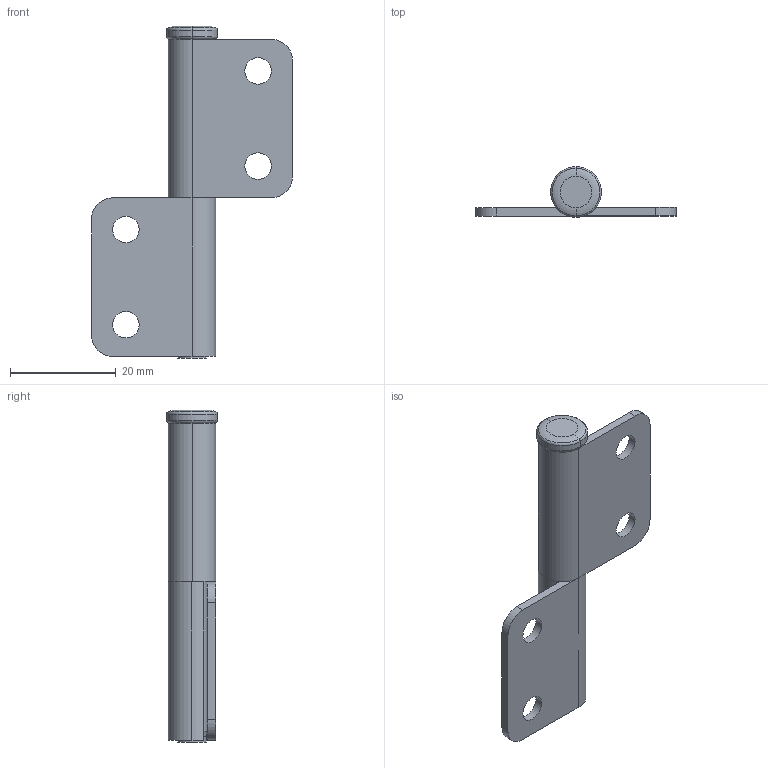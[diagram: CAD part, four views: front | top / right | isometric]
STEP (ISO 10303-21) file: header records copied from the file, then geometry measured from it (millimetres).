
FILE_DESCRIPTION (( 'STEP AP203' ), '1' );
FILE_NAME ('B-206-4.STEP', '2015-11-21T16:12:30', ( '' ), ( '' ), 'SwSTEP 2.0', 'SolidWorks 2014', '' );
FILE_SCHEMA (( 'CONFIG_CONTROL_DESIGN' ));
Length unit declared in the file: millimetre
Products named in the file (4): 小; 心-小; 小1; B-206-4
Assembly tree (3 placements, depth 2):
  B-206-4
    小
    心-小
    小1
Bounding box: 38 x 9.6 x 62.8 mm (x, y, z)
Volume: 5293.7 mm3; surface area: 6239.1 mm2
Topology: 3 solids, 3 shells, 53 faces, 128 edges, 82 vertices
Faces by surface type: cylinder 30, plane 15, torus 6, cone 2
Entity records: 2004 total; most frequent: DIRECTION 318, CARTESIAN_POINT 269, ORIENTED_EDGE 256, AXIS2_PLACEMENT_3D 131, EDGE_CURVE 128, VERTEX_POINT 82, CIRCLE 72, EDGE_LOOP 62
